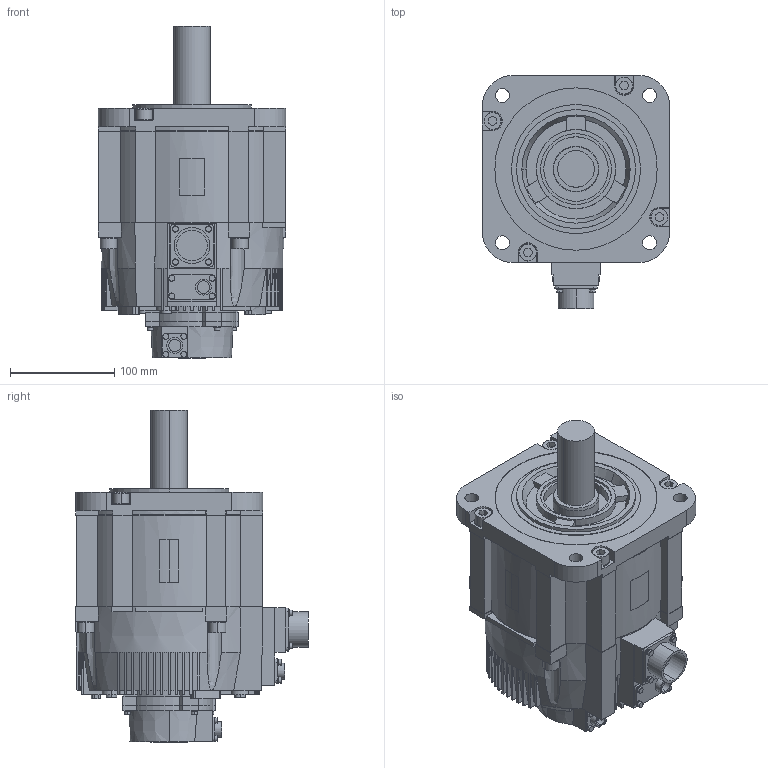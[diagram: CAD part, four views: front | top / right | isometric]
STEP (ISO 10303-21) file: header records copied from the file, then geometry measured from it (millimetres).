
FILE_DESCRIPTION (( 'STEP AP203' ), '1' );
FILE_NAME ('sgm7g_44a6a2c.STEP', '2016-11-12T04:54:04', ( '匠エンジニアリング山之内' ), ( 'TAKUMI-Engniaring' ), 'SwSTEP 2.0', 'SolidWorks 2006303', '' );
FILE_SCHEMA (( 'CONFIG_CONTROL_DESIGN' ));
Length unit declared in the file: millimetre
Products named in the file (1): sgm7g_44a6a2c
Bounding box: 180 x 223.85 x 319.1 mm (x, y, z)
Volume: 5351549.8 mm3; surface area: 276817 mm2
Topology: 1 solids, 1 shells, 943 faces, 2478 edges, 1637 vertices
Faces by surface type: plane 618, cylinder 256, cone 69
Entity records: 30000 total; most frequent: CARTESIAN_POINT 6196, DIRECTION 4976, ORIENTED_EDGE 4956, EDGE_CURVE 2478, AXIS2_PLACEMENT_3D 1762, VERTEX_POINT 1637, LINE 1452, VECTOR 1452
